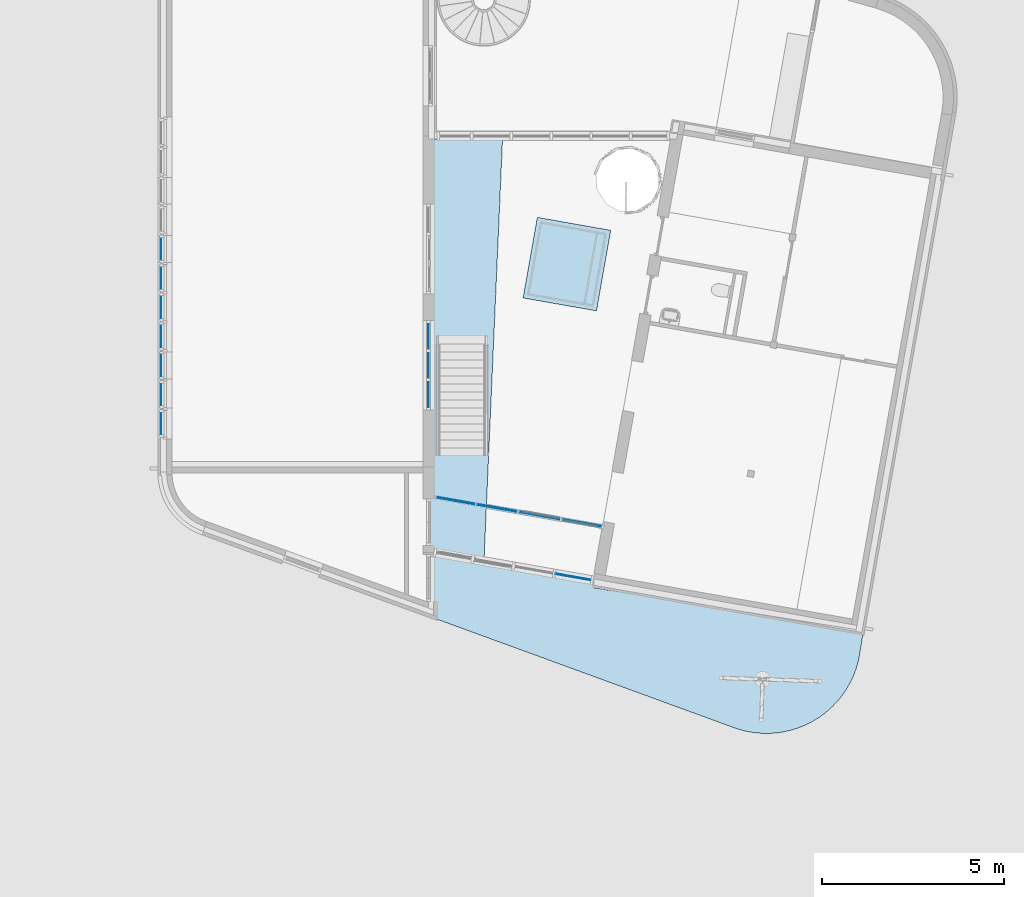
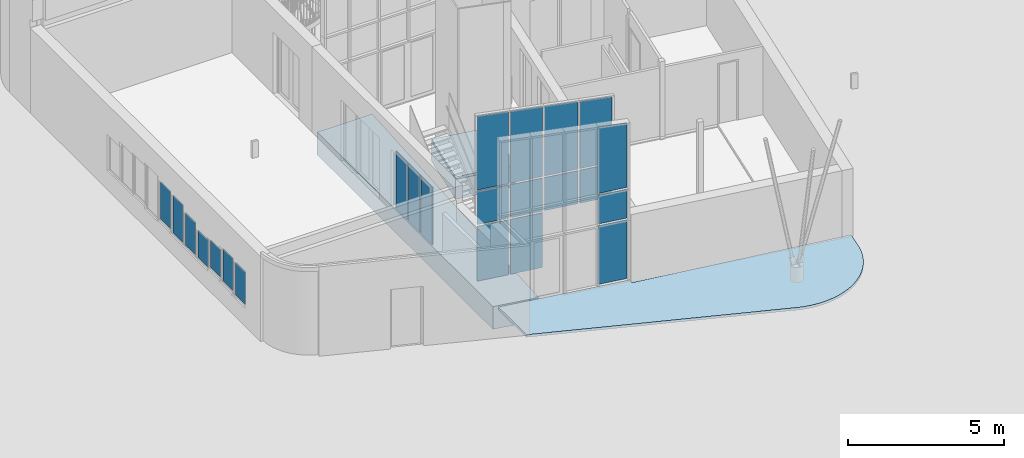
# One storey, part 9 of 21: 23 plates, 4 slabs, 10 elements without a shape of their own.
"""IFC2X3 building model written with IfcOpenShell, lengths in millimetres."""

from ifc_helpers import new_model, entity, si_unit, converted_unit, derived_unit, direction, frame, frame_2d, origin, origin_2d_with_axis, place, context, subcontext, project, spatial, polyline, circle_curve, parameter, trimmed, segment, composite_curve, rectangle, outline, extrude, source, transform, mapped, material, layer, layer_set, layer_usage, type_object, type_shapes, element, aggregate, save


model = new_model("IFC2X3")

# Units and contexts
model_context = context("Model", 3, precision=0.01, world=origin(), true_north=direction((6.12303176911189e-17, 1.0)))
body_context = subcontext(model_context, "Body", "Model", "MODEL_VIEW")
ifc_project = project(units=[si_unit("LENGTHUNIT", "METRE", prefix="MILLI"), si_unit("AREAUNIT", "SQUARE_METRE"), si_unit("VOLUMEUNIT", "CUBIC_METRE"), converted_unit("PLANEANGLEUNIT", "DEGREE", entity("IfcRatioMeasure", 0.0174532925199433), si_unit("PLANEANGLEUNIT", "RADIAN"), dimensions=[0, 0, 0, 0, 0, 0, 0]), si_unit("MASSUNIT", "GRAM", prefix="KILO"), derived_unit("MASSDENSITYUNIT", [(si_unit("MASSUNIT", "GRAM", prefix="KILO"), 1), (si_unit("LENGTHUNIT", "METRE"), -3)]), derived_unit("MOMENTOFINERTIAUNIT", [(si_unit("LENGTHUNIT", "METRE"), 4)]), si_unit("TIMEUNIT", "SECOND"), si_unit("FREQUENCYUNIT", "HERTZ"), si_unit("THERMODYNAMICTEMPERATUREUNIT", "DEGREE_CELSIUS"), derived_unit("THERMALTRANSMITTANCEUNIT", [(si_unit("MASSUNIT", "GRAM", prefix="KILO"), 1), (si_unit("THERMODYNAMICTEMPERATUREUNIT", "KELVIN"), -1), (si_unit("TIMEUNIT", "SECOND"), -3)]), derived_unit("VOLUMETRICFLOWRATEUNIT", [(si_unit("LENGTHUNIT", "METRE"), 3), (si_unit("TIMEUNIT", "SECOND"), -1)]), si_unit("ELECTRICCURRENTUNIT", "AMPERE"), si_unit("ELECTRICVOLTAGEUNIT", "VOLT"), si_unit("POWERUNIT", "WATT"), si_unit("FORCEUNIT", "NEWTON", prefix="KILO"), si_unit("ILLUMINANCEUNIT", "LUX"), si_unit("LUMINOUSFLUXUNIT", "LUMEN"), si_unit("LUMINOUSINTENSITYUNIT", "CANDELA"), derived_unit("USERDEFINED", [(si_unit("MASSUNIT", "GRAM", prefix="KILO"), -1), (si_unit("LENGTHUNIT", "METRE"), -2), (si_unit("TIMEUNIT", "SECOND"), 3), (si_unit("LUMINOUSFLUXUNIT", "LUMEN"), 1)]), derived_unit("LINEARVELOCITYUNIT", [(si_unit("LENGTHUNIT", "METRE"), 1), (si_unit("TIMEUNIT", "SECOND"), -1)]), si_unit("PRESSUREUNIT", "PASCAL"), derived_unit("USERDEFINED", [(si_unit("LENGTHUNIT", "METRE"), -2), (si_unit("MASSUNIT", "GRAM", prefix="KILO"), 1), (si_unit("TIMEUNIT", "SECOND"), -2)]), derived_unit("LINEARFORCEUNIT", [(si_unit("MASSUNIT", "GRAM", prefix="KILO"), 1), (si_unit("LENGTHUNIT", "METRE"), 1), (si_unit("TIMEUNIT", "SECOND"), -2), (si_unit("LENGTHUNIT", "METRE"), -1)]), derived_unit("PLANARFORCEUNIT", [(si_unit("MASSUNIT", "GRAM", prefix="KILO"), 1), (si_unit("LENGTHUNIT", "METRE"), 1), (si_unit("TIMEUNIT", "SECOND"), -2), (si_unit("LENGTHUNIT", "METRE"), -2)])], contexts=[model_context])

# Site, building, storey
site_placement = place(None, origin())
site = spatial("IfcSite", under=ifc_project, at=site_placement, Name="<Kadaster Gemeente>;<Kadaster nummer>;<Kadaster sectie>", CompositionType="ELEMENT")
building_placement = place(site_placement, origin())
building = spatial("IfcBuilding", under=site, at=building_placement, Name="JRCZ Middelburg", CompositionType="ELEMENT")
storey_placement = place(building_placement, origin())
storey = spatial("IfcBuildingStorey", under=building, at=storey_placement, Name="00 begane grond", CompositionType="ELEMENT", Elevation=0.0)

# Curtain wall, plates
curtain_wall_type_1 = type_object("IfcCurtainWallType", Name="Curtain Wall:vliesgevel A", PredefinedType="NOTDEFINED")
curtain_wall_1_placement = place(storey_placement, origin())
curtain_wall_1 = element("IfcCurtainWall", 1, at=curtain_wall_1_placement, inside=storey, type_object=curtain_wall_type_1, Name="Curtain Wall:vliesgevel A", ObjectType="Curtain Wall:vliesgevel A")
ifc_material_1 = material(Name="o1_glas")
plate_type_1 = type_object("IfcPlateType", Name="System Panel:31_CWP_glas_1", PredefinedType="CURTAIN_PANEL", material=ifc_material_1)
shared_shape_1 = source(origin(), body_context, "Body", "SweptSolid", [
    extrude(rectangle(XDim=24.0, YDim=985.058752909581, at=frame_2d((-4.44089209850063e-15, -2.55795384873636e-13), x_axis=(1.0, 0.0))), frame((0.0, 57.0, 0.0), z_axis=(0.0, 0.0, 1.0), x_axis=(0.0, 1.0, 0.0)), (0.0, 0.0, 1.0), 2299.5),
])
type_shapes(plate_type_1, [shared_shape_1])
plate_1_placement = place(curtain_wall_1_placement, frame((21189.0341191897, 7037.33603375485, 67.0), z_axis=(0.0, 0.0, 1.0), x_axis=(-0.984807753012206, 0.173648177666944, 0.0)))
plate_1 = element("IfcPlate", 2, at=plate_1_placement, type_object=plate_type_1, material=ifc_material_1, Name="System Panel:31_CWP_glas_1", ObjectType="System Panel:31_CWP_glas_1", context=body_context, shape_type="MappedRepresentation", body=[
    mapped(shared_shape_1, transform((0.0, 0.0, 0.0), scale=1.0)),
])
plate_type_2 = type_object("IfcPlateType", Name="System Panel:31_CWP_glas_1", PredefinedType="CURTAIN_PANEL", material=ifc_material_1)
shared_shape_2 = source(origin(), body_context, "Body", "SweptSolid", [
    extrude(rectangle(XDim=24.0, YDim=985.058752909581, at=frame_2d((-4.44089209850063e-15, -2.55795384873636e-13), x_axis=(1.0, 0.0))), frame((0.0, 57.0, 0.0), z_axis=(0.0, 0.0, 1.0), x_axis=(0.0, 1.0, 0.0)), (0.0, 0.0, 1.0), 1133.0),
])
type_shapes(plate_type_2, [shared_shape_2])
plate_2_placement = place(curtain_wall_1_placement, frame((21189.0341191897, 7037.33603375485, 2433.5), z_axis=(0.0, 0.0, 1.0), x_axis=(-0.984807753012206, 0.173648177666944, 0.0)))
plate_2 = element("IfcPlate", 3, at=plate_2_placement, type_object=plate_type_2, material=ifc_material_1, Name="System Panel:31_CWP_glas_1", ObjectType="System Panel:31_CWP_glas_1", context=body_context, shape_type="MappedRepresentation", body=[
    mapped(shared_shape_2, transform((0.0, 0.0, 0.0), scale=1.0)),
])
plate_type_3 = type_object("IfcPlateType", Name="System Panel:31_CWP_glas_1", PredefinedType="CURTAIN_PANEL", material=ifc_material_1)
shared_shape_3 = source(origin(), body_context, "Body", "SweptSolid", [
    extrude(outline(polyline([(-1286.03889602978, -492.52937645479), (1249.09919279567, -492.52937645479), (1322.97859926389, 492.529376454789), (-1286.03889602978, 492.529376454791), (-1286.03889602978, -492.52937645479)])), frame((0.0, 45.0, 1286.03889602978), z_axis=(0.0, 1.0, 0.0), x_axis=(0.0, 0.0, 1.0)), (0.0, 0.0, 1.0), 24.0),
])
type_shapes(plate_type_3, [shared_shape_3])
plate_3_placement = place(curtain_wall_1_placement, frame((21189.0341191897, 7037.33603375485, 3633.5), z_axis=(0.0, 0.0, 1.0), x_axis=(-0.984807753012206, 0.173648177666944, 0.0)))
plate_3 = element("IfcPlate", 4, at=plate_3_placement, type_object=plate_type_3, material=ifc_material_1, Name="System Panel:31_CWP_glas_1", ObjectType="System Panel:31_CWP_glas_1", context=body_context, shape_type="MappedRepresentation", body=[
    mapped(shared_shape_3, transform((0.0, 0.0, 0.0), scale=1.0)),
])
aggregate(curtain_wall_1, [plate_1, plate_2, plate_3])

curtain_wall_type_2 = type_object("IfcCurtainWallType", Name="Curtain Wall:vliesgevel B", PredefinedType="NOTDEFINED")
curtain_wall_2_placement = place(storey_placement, origin())
curtain_wall_2 = element("IfcCurtainWall", 5, at=curtain_wall_2_placement, inside=storey, type_object=curtain_wall_type_2, Name="Curtain Wall:vliesgevel B", ObjectType="Curtain Wall:vliesgevel B")
plate_type_4 = type_object("IfcPlateType", Name="System Panel:32_CWP_glas", PredefinedType="CURTAIN_PANEL", material=ifc_material_1)
shared_shape_4 = source(origin(), body_context, "Body", "SweptSolid", [
    extrude(rectangle(XDim=24.0, YDim=1065.42331848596, at=frame_2d((0.0, -2.8421709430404e-13), x_axis=(1.0, 0.0))), frame((0.0, 0.0, 0.0), z_axis=(0.0, 0.0, 1.0), x_axis=(0.0, 1.0, 0.0)), (0.0, 0.0, 1.0), 2144.16666666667),
])
type_shapes(plate_type_4, [shared_shape_4])
plate_4_placement = place(curtain_wall_2_placement, frame((17952.8506915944, 9074.2385141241, 67.0), z_axis=(0.0, 0.0, 1.0), x_axis=(0.984807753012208, -0.173648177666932, 0.0)))
plate_4 = element("IfcPlate", 6, at=plate_4_placement, type_object=plate_type_4, material=ifc_material_1, Name="System Panel:32_CWP_glas", ObjectType="System Panel:32_CWP_glas", context=body_context, shape_type="MappedRepresentation", body=[
    mapped(shared_shape_4, transform((0.0, 0.0, 0.0), scale=1.0)),
])
plate_type_5 = type_object("IfcPlateType", Name="System Panel:32_CWP_glas", PredefinedType="CURTAIN_PANEL", material=ifc_material_1)
shared_shape_5 = source(origin(), body_context, "Body", "SweptSolid", [
    extrude(rectangle(XDim=24.0, YDim=1105.26973481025, at=frame_2d((0.0, -2.27373675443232e-13), x_axis=(1.0, 0.0))), frame((0.0, 0.0, 0.0), z_axis=(0.0, 0.0, 1.0), x_axis=(0.0, 1.0, 0.0)), (0.0, 0.0, 1.0), 2144.16666666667),
])
type_shapes(plate_type_5, [shared_shape_5])
plate_5_placement = place(curtain_wall_2_placement, frame((19087.6904851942, 8874.13563973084, 67.0), z_axis=(0.0, 0.0, 1.0), x_axis=(0.984807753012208, -0.173648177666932, 0.0)))
plate_5 = element("IfcPlate", 7, at=plate_5_placement, type_object=plate_type_5, material=ifc_material_1, Name="System Panel:32_CWP_glas", ObjectType="System Panel:32_CWP_glas", context=body_context, shape_type="MappedRepresentation", body=[
    mapped(shared_shape_5, transform((0.0, 0.0, 0.0), scale=1.0)),
])
plate_type_6 = type_object("IfcPlateType", Name="System Panel:32_CWP_glas", PredefinedType="CURTAIN_PANEL", material=ifc_material_1)
shared_shape_6 = source(origin(), body_context, "Body", "SweptSolid", [
    extrude(rectangle(XDim=24.0, YDim=1065.42331848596, at=frame_2d((0.0, -2.8421709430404e-13), x_axis=(1.0, 0.0))), frame((0.0, 0.0, 0.0), z_axis=(0.0, 0.0, 1.0), x_axis=(0.0, 1.0, 0.0)), (0.0, 0.0, 1.0), 1290.66666666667),
])
type_shapes(plate_type_6, [shared_shape_6])
plate_6_placement = place(curtain_wall_2_placement, frame((17952.8506915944, 9074.2385141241, 2278.16666666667), z_axis=(0.0, 0.0, 1.0), x_axis=(0.984807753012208, -0.173648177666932, 0.0)))
plate_6 = element("IfcPlate", 8, at=plate_6_placement, type_object=plate_type_6, material=ifc_material_1, Name="System Panel:32_CWP_glas", ObjectType="System Panel:32_CWP_glas", context=body_context, shape_type="MappedRepresentation", body=[
    mapped(shared_shape_6, transform((0.0, 0.0, 0.0), scale=1.0)),
])
plate_type_7 = type_object("IfcPlateType", Name="System Panel:32_CWP_glas", PredefinedType="CURTAIN_PANEL", material=ifc_material_1)
shared_shape_7 = source(origin(), body_context, "Body", "SweptSolid", [
    extrude(rectangle(XDim=24.0, YDim=1105.26973481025, at=frame_2d((0.0, -2.27373675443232e-13), x_axis=(1.0, 0.0))), frame((0.0, 0.0, 0.0), z_axis=(0.0, 0.0, 1.0), x_axis=(0.0, 1.0, 0.0)), (0.0, 0.0, 1.0), 1290.66666666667),
])
type_shapes(plate_type_7, [shared_shape_7])
plate_7_placement = place(curtain_wall_2_placement, frame((19087.6904851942, 8874.13563973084, 2278.16666666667), z_axis=(0.0, 0.0, 1.0), x_axis=(0.984807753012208, -0.173648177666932, 0.0)))
plate_7 = element("IfcPlate", 9, at=plate_7_placement, type_object=plate_type_7, material=ifc_material_1, Name="System Panel:32_CWP_glas", ObjectType="System Panel:32_CWP_glas", context=body_context, shape_type="MappedRepresentation", body=[
    mapped(shared_shape_7, transform((0.0, 0.0, 0.0), scale=1.0)),
])
plate_type_8 = type_object("IfcPlateType", Name="System Panel:32_CWP_glas", PredefinedType="CURTAIN_PANEL", material=ifc_material_1)
shared_shape_8 = source(origin(), body_context, "Body", "SweptSolid", [
    extrude(rectangle(XDim=24.0, YDim=1135.38545793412, at=frame_2d((0.0, -5.6843418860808e-14), x_axis=(1.0, 0.0))), frame((0.0, 0.0, 0.0), z_axis=(0.0, 0.0, 1.0), x_axis=(0.0, 1.0, 0.0)), (0.0, 0.0, 1.0), 1290.66666666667),
])
type_shapes(plate_type_8, [shared_shape_8])
plate_8_placement = place(curtain_wall_2_placement, frame((20256.9799074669, 8667.95836632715, 2278.16666666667), z_axis=(0.0, 0.0, 1.0), x_axis=(0.984807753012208, -0.173648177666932, 0.0)))
plate_8 = element("IfcPlate", 10, at=plate_8_placement, type_object=plate_type_8, material=ifc_material_1, Name="System Panel:32_CWP_glas", ObjectType="System Panel:32_CWP_glas", context=body_context, shape_type="MappedRepresentation", body=[
    mapped(shared_shape_8, transform((0.0, 0.0, 0.0), scale=1.0)),
])
plate_type_9 = type_object("IfcPlateType", Name="System Panel:32_CWP_glas", PredefinedType="CURTAIN_PANEL", material=ifc_material_1)
shared_shape_9 = source(origin(), body_context, "Body", "SweptSolid", [
    extrude(rectangle(XDim=24.0, YDim=1095.63545793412, at=frame_2d((0.0, 3.41060513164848e-13), x_axis=(1.0, 0.0))), frame((0.0, 0.0, 0.0), z_axis=(0.0, 0.0, 1.0), x_axis=(0.0, 1.0, 0.0)), (0.0, 0.0, 1.0), 1290.66666666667),
])
type_shapes(plate_type_9, [shared_shape_9])
plate_9_placement = place(curtain_wall_2_placement, frame((21421.5253744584, 8462.6175802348, 2278.16666666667), z_axis=(0.0, 0.0, 1.0), x_axis=(0.984807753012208, -0.173648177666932, 0.0)))
plate_9 = element("IfcPlate", 11, at=plate_9_placement, type_object=plate_type_9, material=ifc_material_1, Name="System Panel:32_CWP_glas", ObjectType="System Panel:32_CWP_glas", context=body_context, shape_type="MappedRepresentation", body=[
    mapped(shared_shape_9, transform((0.0, 0.0, 0.0), scale=1.0)),
])
plate_type_10 = type_object("IfcPlateType", Name="System Panel:32_CWP_glas", PredefinedType="CURTAIN_PANEL", material=ifc_material_1)
shared_shape_10 = source(origin(), body_context, "Body", "SweptSolid", [
    extrude(outline(polyline([(-1213.26966802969, -532.711659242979), (-426.769668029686, -532.711659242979), (1678.83955149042, -532.711659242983), (1601.23912062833, 532.711659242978), (-426.769668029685, 532.711659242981), (-1213.26966802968, 532.711659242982), (-1213.26966802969, -532.711659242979)])), frame((0.0, -12.0, 1213.26966802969), z_axis=(0.0, 1.0, 0.0), x_axis=(0.0, 0.0, 1.0)), (0.0, 0.0, 1.0), 24.0),
])
type_shapes(plate_type_10, [shared_shape_10])
plate_10_placement = place(curtain_wall_2_placement, frame((17952.8506915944, 9074.2385141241, 3635.83333333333), z_axis=(0.0, 0.0, 1.0), x_axis=(0.984807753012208, -0.173648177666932, 0.0)))
plate_10 = element("IfcPlate", 12, at=plate_10_placement, type_object=plate_type_10, material=ifc_material_1, Name="System Panel:32_CWP_glas", ObjectType="System Panel:32_CWP_glas", context=body_context, shape_type="MappedRepresentation", body=[
    mapped(shared_shape_10, transform((0.0, 0.0, 0.0), scale=1.0)),
])
plate_type_11 = type_object("IfcPlateType", Name="System Panel:32_CWP_glas", PredefinedType="CURTAIN_PANEL", material=ifc_material_1)
shared_shape_11 = source(origin(), body_context, "Body", "SweptSolid", [
    extrude(outline(polyline([(-1185.29249832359, -552.634867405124), (-398.792498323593, -552.634867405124), (1624.33632499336, -552.634867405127), (1543.83366830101, 552.634867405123), (-398.792498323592, 552.634867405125), (-1185.29249832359, 552.634867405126), (-1185.29249832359, -552.634867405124)])), frame((0.0, -12.0, 1185.29249832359), z_axis=(0.0, 1.0, 0.0), x_axis=(0.0, 0.0, 1.0)), (0.0, 0.0, 1.0), 24.0),
])
type_shapes(plate_type_11, [shared_shape_11])
plate_11_placement = place(curtain_wall_2_placement, frame((19087.6904851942, 8874.13563973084, 3635.83333333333), z_axis=(0.0, 0.0, 1.0), x_axis=(0.984807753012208, -0.173648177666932, 0.0)))
plate_11 = element("IfcPlate", 13, at=plate_11_placement, type_object=plate_type_11, material=ifc_material_1, Name="System Panel:32_CWP_glas", ObjectType="System Panel:32_CWP_glas", context=body_context, shape_type="MappedRepresentation", body=[
    mapped(shared_shape_11, transform((0.0, 0.0, 0.0), scale=1.0)),
])
plate_type_12 = type_object("IfcPlateType", Name="System Panel:32_CWP_glas", PredefinedType="CURTAIN_PANEL", material=ifc_material_1)
shared_shape_12 = source(origin(), body_context, "Body", "SweptSolid", [
    extrude(outline(polyline([(-1156.46604300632, -567.69272896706), (-369.966043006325, -567.69272896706), (1567.78015827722, -567.692728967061), (1485.08401374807, 567.692728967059), (-369.966043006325, 567.69272896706), (-1156.46604300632, 567.692728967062), (-1156.46604300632, -567.69272896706)])), frame((0.0, -12.0, 1156.46604300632), z_axis=(0.0, 1.0, 0.0), x_axis=(0.0, 0.0, 1.0)), (0.0, 0.0, 1.0), 24.0),
])
type_shapes(plate_type_12, [shared_shape_12])
plate_12_placement = place(curtain_wall_2_placement, frame((20256.9799074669, 8667.95836632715, 3635.83333333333), z_axis=(0.0, 0.0, 1.0), x_axis=(0.984807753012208, -0.173648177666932, 0.0)))
plate_12 = element("IfcPlate", 14, at=plate_12_placement, type_object=plate_type_12, material=ifc_material_1, Name="System Panel:32_CWP_glas", ObjectType="System Panel:32_CWP_glas", context=body_context, shape_type="MappedRepresentation", body=[
    mapped(shared_shape_12, transform((0.0, 0.0, 0.0), scale=1.0)),
])
plate_type_13 = type_object("IfcPlateType", Name="System Panel:32_CWP_glas", PredefinedType="CURTAIN_PANEL", material=ifc_material_1)
shared_shape_13 = source(origin(), body_context, "Body", "SweptSolid", [
    extrude(outline(polyline([(-1127.73672556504, -547.817728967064), (-341.236725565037, -547.817728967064), (1508.82053321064, -547.817728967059), (1429.12636904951, 547.817728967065), (-341.236725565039, 547.817728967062), (-1127.73672556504, 547.81772896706), (-1127.73672556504, -547.817728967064)])), frame((0.0, -12.0, 1127.73672556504), z_axis=(0.0, 1.0, 0.0), x_axis=(0.0, 0.0, 1.0)), (0.0, 0.0, 1.0), 24.0),
])
type_shapes(plate_type_13, [shared_shape_13])
plate_13_placement = place(curtain_wall_2_placement, frame((21421.5253744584, 8462.6175802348, 3635.83333333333), z_axis=(0.0, 0.0, 1.0), x_axis=(0.984807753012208, -0.173648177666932, 0.0)))
plate_13 = element("IfcPlate", 15, at=plate_13_placement, type_object=plate_type_13, material=ifc_material_1, Name="System Panel:32_CWP_glas", ObjectType="System Panel:32_CWP_glas", context=body_context, shape_type="MappedRepresentation", body=[
    mapped(shared_shape_13, transform((0.0, 0.0, 0.0), scale=1.0)),
])
aggregate(curtain_wall_2, [plate_4, plate_5, plate_6, plate_7, plate_8, plate_9, plate_10, plate_11, plate_12, plate_13])

curtain_wall_type_3 = type_object("IfcCurtainWallType", Name="Curtain Wall:NLRS_32_CW_067x114", PredefinedType="NOTDEFINED")
curtain_wall_3_placement = place(storey_placement, origin())
curtain_wall_3 = element("IfcCurtainWall", 16, at=curtain_wall_3_placement, inside=storey, type_object=curtain_wall_type_3, Name="Curtain Wall:NLRS_32_CW_067x114", ObjectType="Curtain Wall:NLRS_32_CW_067x114")
plate_type_14 = type_object("IfcPlateType", Name="System Panel:32_CWP_glas", PredefinedType="CURTAIN_PANEL", material=ifc_material_1)
shared_shape_14 = source(origin(), body_context, "Body", "SweptSolid", [
    extrude(rectangle(XDim=24.0, YDim=733.000000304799, at=origin_2d_with_axis()), frame((0.0, 0.0, 0.0), z_axis=(0.0, 0.0, 1.0), x_axis=(0.0, 1.0, 0.0)), (0.0, 0.0, 1.0), 2266.0),
])
type_shapes(plate_type_14, [shared_shape_14])
plate_14_placement = place(curtain_wall_3_placement, frame((17203.0, 12000.0, 67.0), z_axis=(0.0, 0.0, 1.0), x_axis=(0.0, 1.0, 0.0)))
plate_14 = element("IfcPlate", 17, at=plate_14_placement, type_object=plate_type_14, material=ifc_material_1, Name="System Panel:32_CWP_glas", ObjectType="System Panel:32_CWP_glas", context=body_context, shape_type="MappedRepresentation", body=[
    mapped(shared_shape_14, transform((0.0, 0.0, 0.0), scale=1.0)),
])
plate_15_placement = place(curtain_wall_3_placement, frame((17203.0, 12800.0, 67.0), z_axis=(0.0, 0.0, 1.0), x_axis=(0.0, 1.0, 0.0)))
plate_15 = element("IfcPlate", 18, at=plate_15_placement, type_object=plate_type_14, material=ifc_material_1, Name="System Panel:32_CWP_glas", ObjectType="System Panel:32_CWP_glas", context=body_context, shape_type="MappedRepresentation", body=[
    mapped(shared_shape_14, transform((0.0, 0.0, 0.0), scale=1.0)),
])
plate_16_placement = place(curtain_wall_3_placement, frame((17203.0, 13600.0, 67.0), z_axis=(0.0, 0.0, 1.0), x_axis=(0.0, 1.0, 0.0)))
plate_16 = element("IfcPlate", 19, at=plate_16_placement, type_object=plate_type_14, material=ifc_material_1, Name="System Panel:32_CWP_glas", ObjectType="System Panel:32_CWP_glas", context=body_context, shape_type="MappedRepresentation", body=[
    mapped(shared_shape_14, transform((0.0, 0.0, 0.0), scale=1.0)),
])
aggregate(curtain_wall_3, [plate_14, plate_15, plate_16])

# Slab
ifc_material_2 = material(Name="vloerafwerking pvc")
ifc_layer_1 = layer(ifc_material_2, 10.0)
ifc_material_3 = material(Name="RBM_f2_beton_ihwg_gen")
ifc_layer_2 = layer(ifc_material_3, 80.0)
ifc_material_4 = material(Name="RBM_n7_isolatie_hsb_245")
ifc_layer_3 = layer(ifc_material_4, 540.0)
ifc_material_5 = material(Name="RBM_f2_beton_prefab_gen")
ifc_layer_4 = layer(ifc_material_5, 260.0)
ifc_layer_set_1 = layer_set([ifc_layer_1, ifc_layer_2, ifc_layer_3, ifc_layer_4], Name="Floor:RBM_23_FL_kanaalplaat-260mm+druklaag-80mm overbrugging")
ifc_layer_usage_1 = layer_usage(ifc_layer_set_1, "AXIS3", "POSITIVE", 0.0)
slab_type_1 = type_object("IfcSlabType", Name="Floor:RBM_23_FL_kanaalplaat-260mm+druklaag-80mm overbrugging", PredefinedType="FLOOR", material=ifc_layer_set_1)
slab_1_placement = place(storey_placement, origin())
element("IfcSlab", 20, at=slab_1_placement, inside=storey, type_object=slab_type_1, material=ifc_layer_usage_1, Name="Floor:RBM_23_FL_kanaalplaat-260mm+druklaag-80mm overbrugging", ObjectType="Floor:RBM_23_FL_kanaalplaat-260mm+druklaag-80mm overbrugging", PredefinedType="FLOOR", context=body_context, shape_type="SweptSolid", body=[
    extrude(outline(polyline([(-5565.2789690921, -891.964131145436), (5711.72435854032, -891.964131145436), (5711.72435854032, 1145.89087265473), (-5858.16974798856, 638.037389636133), (-5565.2789690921, -891.964131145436)])), frame((18091.9641311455, 13315.8990293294, 0.0), z_axis=(0.0, 0.0, -1.0), x_axis=(0.0, 1.0, 0.0)), (0.0, 0.0, 1.0), 890.0),
])

# Curtain wall, plate
curtain_wall_type_4 = type_object("IfcCurtainWallType", Name="Curtain Wall:NLRS_31_CW_Ontwerpkozijn 067x114 2", PredefinedType="NOTDEFINED")
curtain_wall_4_placement = place(storey_placement, origin())
curtain_wall_4 = element("IfcCurtainWall", 21, at=curtain_wall_4_placement, inside=storey, type_object=curtain_wall_type_4, Name="Curtain Wall:NLRS_31_CW_Ontwerpkozijn 067x114 2", ObjectType="Curtain Wall:NLRS_31_CW_Ontwerpkozijn 067x114 2")
plate_type_15 = type_object("IfcPlateType", Name="System Panel:31_CWP_glas_2", PredefinedType="CURTAIN_PANEL", material=ifc_material_1)
shared_shape_15 = source(origin(), body_context, "Body", "SweptSolid", [
    extrude(rectangle(XDim=24.0, YDim=640.999999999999, at=frame_2d((-7.99360577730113e-15, 0.0), x_axis=(1.0, 0.0))), frame((0.0, -85.0, 0.0), z_axis=(0.0, 0.0, 1.0), x_axis=(0.0, 1.0, 0.0)), (0.0, 0.0, 1.0), 1266.0),
])
type_shapes(plate_type_15, [shared_shape_15])
plate_17_placement = place(curtain_wall_4_placement, frame((9931.0, 11200.0, 767.0), z_axis=(0.0, 0.0, 1.0), x_axis=(0.0, -1.0, 0.0)))
plate_17 = element("IfcPlate", 22, at=plate_17_placement, type_object=plate_type_15, material=ifc_material_1, Name="System Panel:31_CWP_glas_2", ObjectType="System Panel:31_CWP_glas_2", context=body_context, shape_type="MappedRepresentation", body=[
    mapped(shared_shape_15, transform((0.0, 0.0, 0.0), scale=1.0)),
])
aggregate(curtain_wall_4, [plate_17])

curtain_wall_5_placement = place(storey_placement, origin())
curtain_wall_5 = element("IfcCurtainWall", 23, at=curtain_wall_5_placement, inside=storey, type_object=curtain_wall_type_4, Name="Curtain Wall:NLRS_31_CW_Ontwerpkozijn 067x114 2", ObjectType="Curtain Wall:NLRS_31_CW_Ontwerpkozijn 067x114 2")
plate_18_placement = place(curtain_wall_5_placement, frame((9931.0, 12000.0, 817.0), z_axis=(0.0, 0.0, 1.0), x_axis=(0.0, -1.0, 0.0)))
plate_18 = element("IfcPlate", 24, at=plate_18_placement, type_object=plate_type_15, material=ifc_material_1, Name="System Panel:31_CWP_glas_2", ObjectType="System Panel:31_CWP_glas_2", context=body_context, shape_type="MappedRepresentation", body=[
    mapped(shared_shape_15, transform((0.0, 0.0, 0.0), scale=1.0)),
])
aggregate(curtain_wall_5, [plate_18])

curtain_wall_6_placement = place(storey_placement, origin())
curtain_wall_6 = element("IfcCurtainWall", 25, at=curtain_wall_6_placement, inside=storey, type_object=curtain_wall_type_4, Name="Curtain Wall:NLRS_31_CW_Ontwerpkozijn 067x114 2", ObjectType="Curtain Wall:NLRS_31_CW_Ontwerpkozijn 067x114 2")
plate_19_placement = place(curtain_wall_6_placement, frame((9931.0, 14400.0, 767.0), z_axis=(0.0, 0.0, 1.0), x_axis=(0.0, -1.0, 0.0)))
plate_19 = element("IfcPlate", 26, at=plate_19_placement, type_object=plate_type_15, material=ifc_material_1, Name="System Panel:31_CWP_glas_2", ObjectType="System Panel:31_CWP_glas_2", context=body_context, shape_type="MappedRepresentation", body=[
    mapped(shared_shape_15, transform((0.0, 0.0, 0.0), scale=1.0)),
])
aggregate(curtain_wall_6, [plate_19])

# Slab
ifc_layer_5 = layer(ifc_material_3, 100.0)
ifc_layer_set_2 = layer_set([ifc_layer_5], Name="Floor:RBM_43_FL_cementdekvloer-50mm_gen_rsf")
ifc_layer_usage_2 = layer_usage(ifc_layer_set_2, "AXIS3", "POSITIVE", 0.0)
slab_type_2 = type_object("IfcSlabType", Name="Floor:RBM_43_FL_cementdekvloer-50mm_gen_rsf", PredefinedType="FLOOR", material=ifc_layer_set_2)
slab_2_placement = place(storey_placement, origin())
element("IfcSlab", 27, at=slab_2_placement, inside=storey, type_object=slab_type_2, material=ifc_layer_usage_2, Name="Floor:RBM_43_FL_cementdekvloer-50mm_gen_rsf", ObjectType="Floor:RBM_43_FL_cementdekvloer-50mm_gen_rsf", PredefinedType="FLOOR", context=body_context, shape_type="SweptSolid", body=[
    extrude(outline(composite_curve([segment(polyline([(106.888391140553, -5799.90451318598), (1903.3167253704, -5799.90451318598)]), True, "CONTINUOUS"), segment(polyline([(1903.3167253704, -5799.90451318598), (1119.95172952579, -1378.51361914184)]), True, "CONTINUOUS"), segment(polyline([(1119.95172952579, -1378.51361914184), (943.199966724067, -1409.82981516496)]), True, "CONTINUOUS"), segment(polyline([(943.199966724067, -1409.82981516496), (-245.57686505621, 6018.92743169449)]), True, "CONTINUOUS"), segment(polyline([(-245.57686505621, 6018.92743169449), (-918.630938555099, 5911.22286382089)]), True, "CONTINUOUS"), segment(trimmed(circle_curve(frame_2d((-467.209199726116, 3350.7115059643), x_axis=(-0.17362374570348, 0.984812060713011)), 2600.0), [parameter(0.0)], [parameter(100.082512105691)], True, "PARAMETER"), True, "CONTINUOUS"), segment(polyline([(-2909.14900914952, 2458.00216516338), (106.888391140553, -5799.90451318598)]), True, "CONTINUOUS")], self_intersect=False)), frame((23143.9045131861, 5744.53608267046, 0.0), z_axis=(0.0, 0.0, -1.0), x_axis=(0.0, 1.0, 0.0)), (0.0, 0.0, 1.0), 100.0),
])

# Curtain wall, plate
curtain_wall_7_placement = place(storey_placement, origin())
curtain_wall_7 = element("IfcCurtainWall", 28, at=curtain_wall_7_placement, inside=storey, type_object=curtain_wall_type_4, Name="Curtain Wall:NLRS_31_CW_Ontwerpkozijn 067x114 2", ObjectType="Curtain Wall:NLRS_31_CW_Ontwerpkozijn 067x114 2")
plate_type_16 = type_object("IfcPlateType", Name="System Panel:31_CWP_glas_2", PredefinedType="CURTAIN_PANEL", material=ifc_material_1)
shared_shape_16 = source(origin(), body_context, "Body", "SweptSolid", [
    extrude(rectangle(XDim=24.0, YDim=640.999999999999, at=frame_2d((-7.99360577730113e-15, 0.0), x_axis=(1.0, 0.0))), frame((0.0, -85.0, 0.0), z_axis=(0.0, 0.0, 1.0), x_axis=(0.0, 1.0, 0.0)), (0.0, 0.0, 1.0), 1066.0),
])
type_shapes(plate_type_16, [shared_shape_16])
plate_20_placement = place(curtain_wall_7_placement, frame((9931.0, 13600.0, 767.0), z_axis=(0.0, 0.0, 1.0), x_axis=(0.0, -1.0, 0.0)))
plate_20 = element("IfcPlate", 29, at=plate_20_placement, type_object=plate_type_16, material=ifc_material_1, Name="System Panel:31_CWP_glas_2", ObjectType="System Panel:31_CWP_glas_2", context=body_context, shape_type="MappedRepresentation", body=[
    mapped(shared_shape_16, transform((0.0, 0.0, 0.0), scale=1.0)),
])
aggregate(curtain_wall_7, [plate_20])

curtain_wall_8_placement = place(storey_placement, origin())
curtain_wall_8 = element("IfcCurtainWall", 30, at=curtain_wall_8_placement, inside=storey, type_object=curtain_wall_type_4, Name="Curtain Wall:NLRS_31_CW_Ontwerpkozijn 067x114 2", ObjectType="Curtain Wall:NLRS_31_CW_Ontwerpkozijn 067x114 2")
plate_21_placement = place(curtain_wall_8_placement, frame((9931.0, 12800.0, 867.0), z_axis=(0.0, 0.0, 1.0), x_axis=(0.0, -1.0, 0.0)))
plate_21 = element("IfcPlate", 31, at=plate_21_placement, type_object=plate_type_16, material=ifc_material_1, Name="System Panel:31_CWP_glas_2", ObjectType="System Panel:31_CWP_glas_2", context=body_context, shape_type="MappedRepresentation", body=[
    mapped(shared_shape_16, transform((0.0, 0.0, 0.0), scale=1.0)),
])
aggregate(curtain_wall_8, [plate_21])

curtain_wall_9_placement = place(storey_placement, origin())
curtain_wall_9 = element("IfcCurtainWall", 32, at=curtain_wall_9_placement, inside=storey, type_object=curtain_wall_type_4, Name="Curtain Wall:NLRS_31_CW_Ontwerpkozijn 067x114 2", ObjectType="Curtain Wall:NLRS_31_CW_Ontwerpkozijn 067x114 2")
plate_type_17 = type_object("IfcPlateType", Name="System Panel:31_CWP_glas_2", PredefinedType="CURTAIN_PANEL", material=ifc_material_1)
shared_shape_17 = source(origin(), body_context, "Body", "SweptSolid", [
    extrude(rectangle(XDim=24.0, YDim=640.999999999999, at=frame_2d((-7.99360577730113e-15, 0.0), x_axis=(1.0, 0.0))), frame((0.0, -85.0, 0.0), z_axis=(0.0, 0.0, 1.0), x_axis=(0.0, 1.0, 0.0)), (0.0, 0.0, 1.0), 1466.0),
])
type_shapes(plate_type_17, [shared_shape_17])
plate_22_placement = place(curtain_wall_9_placement, frame((9931.0, 15200.0, 767.0), z_axis=(0.0, 0.0, 1.0), x_axis=(0.0, -1.0, 0.0)))
plate_22 = element("IfcPlate", 33, at=plate_22_placement, type_object=plate_type_17, material=ifc_material_1, Name="System Panel:31_CWP_glas_2", ObjectType="System Panel:31_CWP_glas_2", context=body_context, shape_type="MappedRepresentation", body=[
    mapped(shared_shape_17, transform((0.0, 0.0, 0.0), scale=1.0)),
])
aggregate(curtain_wall_9, [plate_22])

curtain_wall_10_placement = place(storey_placement, origin())
curtain_wall_10 = element("IfcCurtainWall", 34, at=curtain_wall_10_placement, inside=storey, type_object=curtain_wall_type_4, Name="Curtain Wall:NLRS_31_CW_Ontwerpkozijn 067x114 2", ObjectType="Curtain Wall:NLRS_31_CW_Ontwerpkozijn 067x114 2")
plate_23_placement = place(curtain_wall_10_placement, frame((9931.0, 16000.0, 817.0), z_axis=(0.0, 0.0, 1.0), x_axis=(0.0, -1.0, 0.0)))
plate_23 = element("IfcPlate", 35, at=plate_23_placement, type_object=plate_type_17, material=ifc_material_1, Name="System Panel:31_CWP_glas_2", ObjectType="System Panel:31_CWP_glas_2", context=body_context, shape_type="MappedRepresentation", body=[
    mapped(shared_shape_17, transform((0.0, 0.0, 0.0), scale=1.0)),
])
aggregate(curtain_wall_10, [plate_23])

# Slabs
ifc_layer_6 = layer(ifc_material_4, 790.0)
ifc_layer_set_3 = layer_set([ifc_layer_6], Name="Floor:RBM_23_FL_tempex 790")
ifc_layer_usage_3 = layer_usage(ifc_layer_set_3, "AXIS3", "POSITIVE", 0.0)
slab_type_3 = type_object("IfcSlabType", Name="Floor:RBM_23_FL_tempex 790", PredefinedType="FLOOR", material=ifc_layer_set_3)
slab_3_placement = place(storey_placement, origin())
element("IfcSlab", 36, at=slab_3_placement, inside=storey, type_object=slab_type_3, material=ifc_layer_usage_3, Name="Floor:RBM_23_FL_tempex 790", ObjectType="Floor:RBM_23_FL_tempex 790", PredefinedType="FLOOR", context=body_context, shape_type="SweptSolid", body=[
    extrude(rectangle(XDim=2049.99999999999, YDim=2250.0, at=frame_2d((2.38742359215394e-12, 6.82121026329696e-13), x_axis=(1.0, 0.0))), frame((21008.7549001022, 15584.1898737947, -100.0), z_axis=(0.0, 0.0, -1.0), x_axis=(0.984807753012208, -0.173648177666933, 0.0)), (0.0, 0.0, 1.0), 790.0),
])
ifc_layer_7 = layer(ifc_material_2, 10.0)
ifc_material_6 = material(Name="RBM_f2_beton_ihwg C20-25")
ifc_layer_8 = layer(ifc_material_6, 80.0)
ifc_layer_set_4 = layer_set([ifc_layer_7, ifc_layer_8], Name="Floor:RBM_23_FL_gewapende druklaag gevlinderd")
ifc_layer_usage_4 = layer_usage(ifc_layer_set_4, "AXIS3", "POSITIVE", 0.0)
slab_type_4 = type_object("IfcSlabType", Name="Floor:RBM_23_FL_gewapende druklaag gevlinderd", PredefinedType="FLOOR", material=ifc_layer_set_4)
slab_4_placement = place(storey_placement, origin())
element("IfcSlab", 37, at=slab_4_placement, inside=storey, type_object=slab_type_4, material=ifc_layer_usage_4, Name="Floor:RBM_23_FL_gewapende druklaag gevlinderd", ObjectType="Floor:RBM_23_FL_gewapende druklaag gevlinderd", PredefinedType="FLOOR", context=body_context, shape_type="SweptSolid", body=[
    extrude(rectangle(XDim=2049.99999999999, YDim=2250.0, at=frame_2d((2.38742359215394e-12, 6.82121026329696e-13), x_axis=(1.0, 0.0))), frame((21008.7549001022, 15584.1898737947, -20.0), z_axis=(0.0, 0.0, -1.0), x_axis=(0.984807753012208, -0.173648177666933, 0.0)), (0.0, 0.0, 1.0), 90.0),
])

save(model, "model.ifc")
